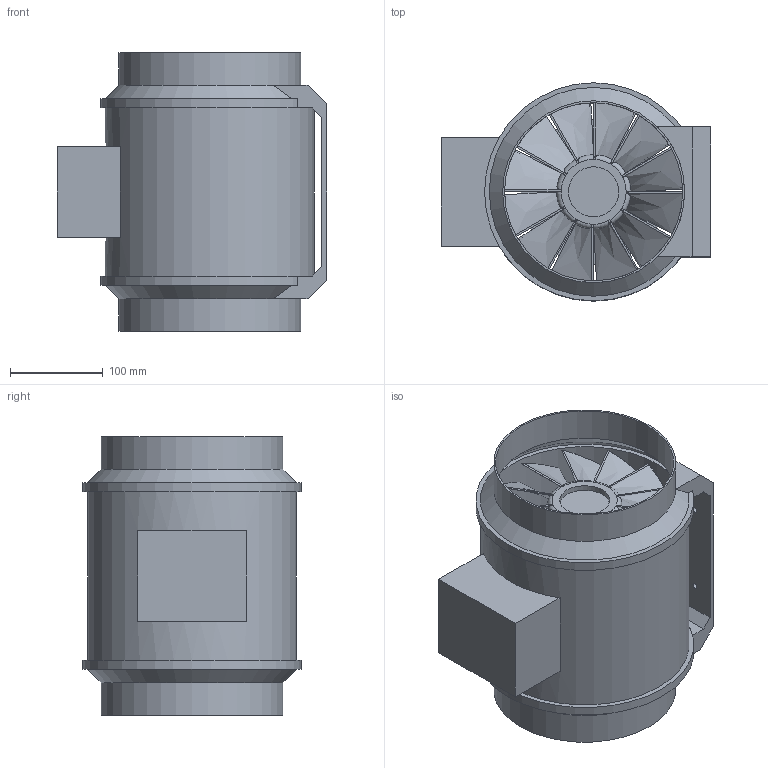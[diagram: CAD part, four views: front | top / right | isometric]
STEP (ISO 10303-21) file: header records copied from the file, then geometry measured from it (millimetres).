
FILE_DESCRIPTION(/* description */ (''),/* implementation_level */ '2;1');
FILE_NAME(/* name */ 'Z:\Output\MV_EC_200-06034-006.stp',/* time_stamp */ '2022-07-25T13:49:33+02:00',/* author */ ('engineering1'),/* organization */ (''),/* preprocessor_version */ 'ST-DEVELOPER v17.2',/* originating_system */ 'Autodesk Inventor 2019',/* authorisation */ '');
FILE_SCHEMA (('AUTOMOTIVE_DESIGN { 1 0 10303 214 3 1 1 }'));
Length unit declared in the file: millimetre
Products named in the file (1): MV-1USER
Bounding box: 290 x 235 x 300 mm (x, y, z)
Volume: 4976031 mm3; surface area: 786679.6 mm2
Topology: 3 solids, 3 shells, 314 faces, 764 edges, 503 vertices
Faces by surface type: plane 237, bspline 36, cylinder 22, torus 13, cone 6
Full cylindrical faces by diameter (mm): 6 x4, 54 x1, 68 x1, 80 x1, 156 x1, 192 x2, 196 x2, 221 x1, 225 x1, 231 x2, 235 x2
Entity records: 10483 total; most frequent: CARTESIAN_POINT 2826, ORIENTED_EDGE 1528, DIRECTION 1426, EDGE_CURVE 764, LINE 508, VECTOR 508, VERTEX_POINT 503, AXIS2_PLACEMENT_3D 459
